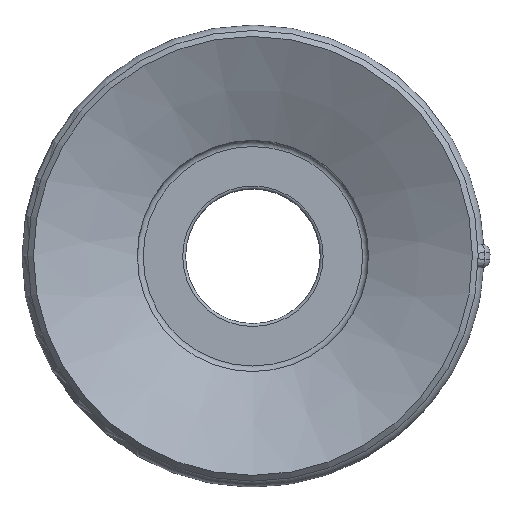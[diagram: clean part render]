
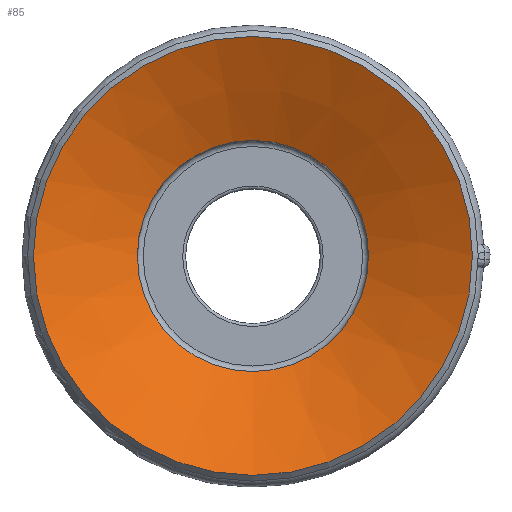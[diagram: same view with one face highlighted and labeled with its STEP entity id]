
A CAD part, top view. The second image highlights one B-rep face of the part: STEP entity #85.
In plain terms, the highlighted conical face has half-angle 64 degrees and reference radius 3.95 mm.
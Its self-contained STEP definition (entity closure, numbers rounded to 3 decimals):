
#85=ADVANCED_FACE('',(#134,#135),#136,.F.);
#134=FACE_OUTER_BOUND('',#294,.T.);
#135=FACE_BOUND('',#295,.T.);
#136=CONICAL_SURFACE('',#296,3.95,1.117);
#294=EDGE_LOOP('',(#453));
#295=EDGE_LOOP('',(#454));
#296=AXIS2_PLACEMENT_3D('',#455,#456,#457);
#453=ORIENTED_EDGE('',*,*,#626,.T.);
#454=ORIENTED_EDGE('',*,*,#627,.F.);
#455=CARTESIAN_POINT('',(0.0,-29.404,-47.168));
#456=DIRECTION('',(-0.0,0.,1.0));
#457=DIRECTION('',(0.0,-1.0,0.));
#626=EDGE_CURVE('',#707,#707,#708,.T.);
#627=EDGE_CURVE('',#709,#709,#710,.T.);
#707=VERTEX_POINT('',#878);
#708=CIRCLE('',#879,7.5);
#709=VERTEX_POINT('',#880);
#710=CIRCLE('',#881,3.95);
#878=CARTESIAN_POINT('',(0.0,-36.904,-45.437));
#879=AXIS2_PLACEMENT_3D('',#962,#963,#964);
#880=CARTESIAN_POINT('',(0.0,-33.354,-47.168));
#881=AXIS2_PLACEMENT_3D('',#965,#966,#967);
#962=CARTESIAN_POINT('',(0.0,-29.404,-45.437));
#963=DIRECTION('',(0.0,0.,1.0));
#964=DIRECTION('',(0.0,-1.0,0.));
#965=CARTESIAN_POINT('',(0.0,-29.404,-47.168));
#966=DIRECTION('',(0.0,0.,1.0));
#967=DIRECTION('',(0.0,-1.0,0.));
